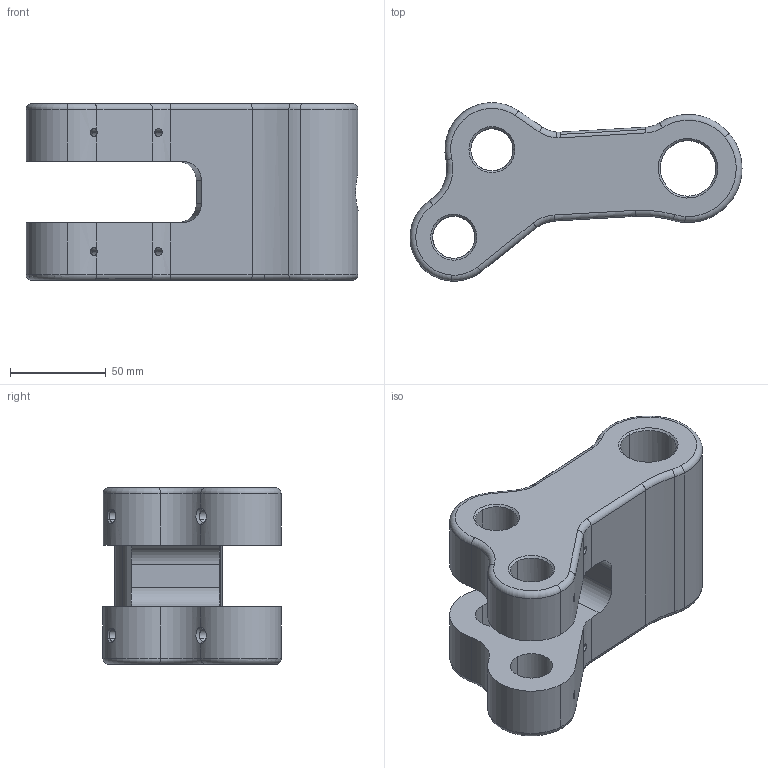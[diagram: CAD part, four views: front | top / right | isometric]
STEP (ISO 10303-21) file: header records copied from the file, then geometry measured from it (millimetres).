
FILE_DESCRIPTION (( 'STEP AP203' ), '1' );
FILE_NAME ('YYDK-500-0029 上曲柄（500T）.STEP', '2026-03-14T07:58:34', ( 'Windows 用户' ), ( '' ), 'SwSTEP 2.0', 'SolidWorks 2020', '' );
FILE_SCHEMA (( 'CONFIG_CONTROL_DESIGN' ));
Length unit declared in the file: millimetre
Products named in the file (1): YYDK-500-0029 上曲柄（500T）
Bounding box: 172.98 x 92.83 x 92 mm (x, y, z)
Volume: 574869.4 mm3; surface area: 77902.6 mm2
Topology: 1 solids, 1 shells, 130 faces, 344 edges, 217 vertices
Faces by surface type: cylinder 70, torus 24, plane 16, cone 12, bspline 8
Entity records: 8580 total; most frequent: CARTESIAN_POINT 5236, DIRECTION 693, ORIENTED_EDGE 688, EDGE_CURVE 344, AXIS2_PLACEMENT_3D 290, VERTEX_POINT 217, CIRCLE 167, EDGE_LOOP 159
